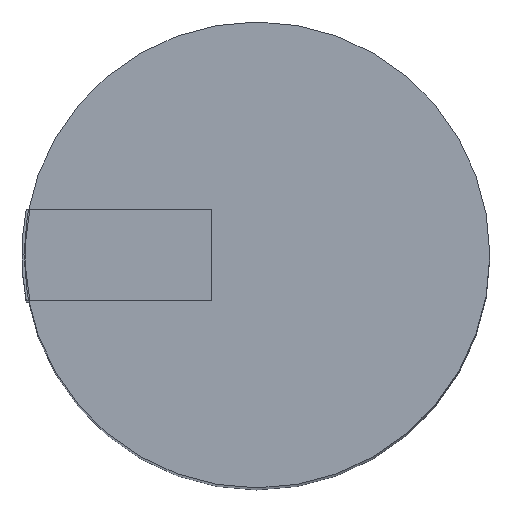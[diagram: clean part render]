
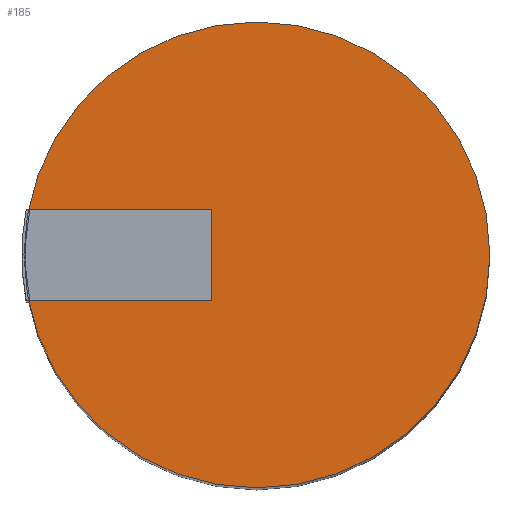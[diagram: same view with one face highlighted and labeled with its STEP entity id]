
A CAD part, top view. The second image highlights one B-rep face of the part: STEP entity #185.
In plain terms, the highlighted planar face has unit normal (0, 0, 1).
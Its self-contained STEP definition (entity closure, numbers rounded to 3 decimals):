
#185=ADVANCED_FACE($,(#191),#187,.T.);
#187=PLANE($,#212);
#191=FACE_OUTER_BOUND($,#195,.T.);
#195=EDGE_LOOP($,(#205));
#196=CIRCLE($,#209,1.6);
#198=VERTEX_POINT('',#227);
#200=EDGE_CURVE($,#198,#198,#196,.T.);
#205=ORIENTED_EDGE($,*,*,#200,.T.);
#209=AXIS2_PLACEMENT_3D($,#228,#217,#218);
#212=AXIS2_PLACEMENT_3D($,#232,#223,#224);
#217=DIRECTION('',(0.,0.,1.));
#218=DIRECTION('',(1.,0.,0.));
#223=DIRECTION('',(0.,0.,1.));
#224=DIRECTION('',(0.,1.,0.));
#227=CARTESIAN_POINT('',(-1.054,0.0,8.382));
#228=CARTESIAN_POINT('',(0.546,0.0,8.382));
#232=CARTESIAN_POINT('',(0.546,0.0,8.382));
